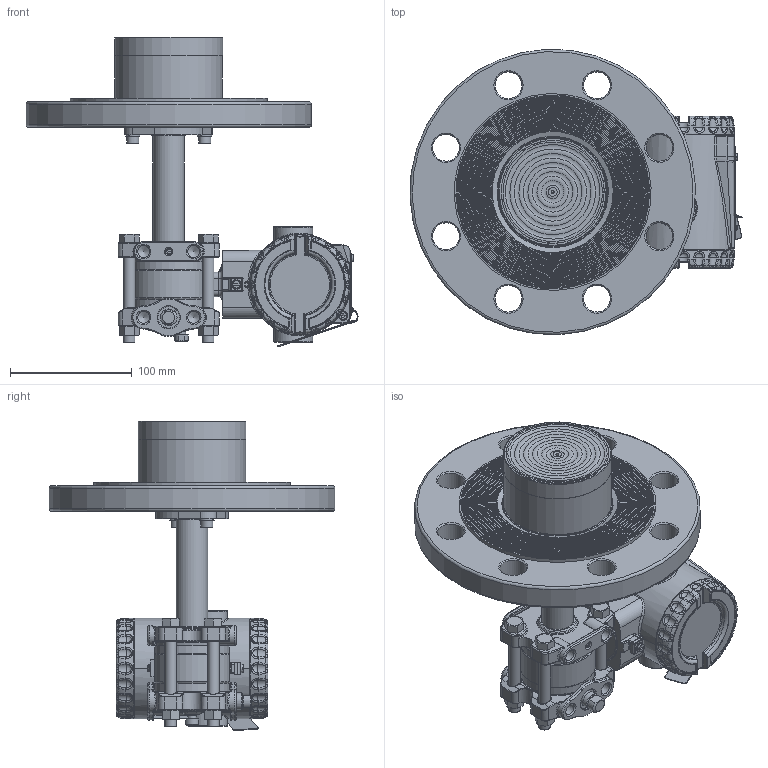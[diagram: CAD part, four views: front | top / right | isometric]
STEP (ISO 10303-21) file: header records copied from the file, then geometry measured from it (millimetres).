
FILE_DESCRIPTION(/* description */ (''),/* implementation_level */ '2;1');
FILE_NAME(/* name */ 'F:\Area\Desenvolvimento_2\Projects\Sensor\projetos\LD400-3d\dimensionais 3D clientes\LD400L\LD400L DN100 PN40 RF ext 50 ref 1-4NPT purga acima.stp',/* time_stamp */ '2023-02-23T17:30:33-03:00',/* author */ ('inventor02'),/* organization */ (''),/* preprocessor_version */ 'ST-DEVELOPER v17',/* originating_system */ 'Autodesk Inventor 2019',/* authorisation */ '');
FILE_SCHEMA (('CONFIG_CONTROL_DESIGN'));
Products named in the file (41): LD30XL DN100 PN40 RF ext 50 ref 1-4NPT purga acima; 204-0301-L-DN100 PN40 RF ext 50 purga acima; nivel fx3 com baixa diferencial 1-4NPT purga acima; involucro fx0-3 apos a usinagem final; flange diferencial std purga; 101-C-7484-01 flange selo nivel VR; 201-A-0504-tubo união teste 1; bujao 1-4NPT; Sangria; Porca 3-8 x 16 UNC; Paraf. 3-8 x 16 UNC; adaptação tubo x flanges 1-1-2 a 4pol; 101-B-0161-anel cortado do tubo - teste1; 101-B-0162-flange fixação tubo; ANSI B18.3.1M - M6x1 x 16; DIN 127 - A 6; flange DN100 PN40 ext 50; 096-B-0212-15; 101-B-7702-02 ext 4-50; 101-C-0143-09; Carcaça 400 com tampas e plaqueta sem letras; 101-D-0845-05 carcaça LD400 sem letras; 101-B-3614-03-tampa 400 sem letras; Tampa visor 400 montada sem letras; 101-B-3612-05 tampa visor 400 sem letras; 101-A-6107; oring 2034; 00034775-0; WHW_250; DIN 915 - M6 x 10; Chapa aterramento externo; 201-A-1771-02 inserto terra recartilhado; AS 1969 - ST4,2; ISO 1207 - M4 x 8; ANSI B18.3.1M - M4x0,7 x 8; Subconjunto plaqueta 400; plaqueta 400 em branco; Parafuso da Plaqueta; Rebite da Plaqueta; 096-A-0169-03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
Assembly tree (50 placements, depth 4):
  LD30XL DN100 PN40 RF ext 50 ref 1-4NPT purga acima
    204-0301-L-DN100 PN40 RF ext 50 purga acima
      nivel fx3 com baixa diferencial 1-4NPT purga acima
        involucro fx0-3 apos a usinagem final
        flange diferencial std purga
        101-C-7484-01 flange selo nivel VR
        201-A-0504-tubo união teste 1
        DIN 915 - M6 x 10
        bujao 1-4NPT
        Sangria
        Porca 3-8 x 16 UNC  x4
        Paraf. 3-8 x 16 UNC  x4
      adaptação tubo x flanges 1-1-2 a 4pol
        101-B-0161-anel cortado do tubo - teste1
        101-B-0162-flange fixação tubo
        ANSI B18.3.1M - M6x1 x 16  x2
        DIN 127 - A 6  x2
      flange DN100 PN40 ext 50
        096-B-0212-15
        101-B-7702-02 ext 4-50
        101-C-0143-09
    Carcaça 400 com tampas e plaqueta sem letras
      101-D-0845-05 carcaça LD400 sem letras
      101-B-3614-03-tampa 400 sem letras
      Tampa visor 400 montada sem letras
        101-B-3612-05 tampa visor 400 sem letras
        101-A-6107
        oring 2034
        00034775-0
        WHW_250
      DIN 915 - M6 x 10
      Chapa aterramento externo
      201-A-1771-02 inserto terra recartilhado
      AS 1969 - ST4,2
      ISO 1207 - M4 x 8
      ANSI B18.3.1M - M4x0,7 x 8  x2
      Subconjunto plaqueta 400
        plaqueta 400 em branco
        Parafuso da Plaqueta
        Rebite da Plaqueta
        096-A-0169-03
        101-A-0502-01
Bounding box: 273.14 x 234.78 x 254.42 mm (x, y, z)
Volume: 1669198 mm3; surface area: 407385.1 mm2
Topology: 43 solids, 43 shells, 2837 faces, 6840 edges, 4116 vertices
Faces by surface type: plane 753, cylinder 668, bspline 604, torus 506, cone 230, sphere 76
Full cylindrical faces by diameter (mm): 2 x4, 2.1 x1, 2.2 x1, 2.459 x3, 2.5 x1, 2.7 x1, 2.8 x1, 3 x4, 3.242 x3, 3.5 x1, 3.571 x1, 4 x5, 4.3 x2, 4.4 x1, 4.917 x4, 5 x1, 5.5 x3, 6 x6, 6.1 x2, 6.2 x1, 6.647 x1, 7 x5, 7.6 x2, 7.798 x4, 8 x1, 9.525 x4, 9.728 x6, 10 x2, 10.5 x8, 10.719 x2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
Entity records: 100497 total; most frequent: CARTESIAN_POINT 37355, DIRECTION 13086, ORIENTED_EDGE 12920, EDGE_CURVE 6460, AXIS2_PLACEMENT_3D 5626, VERTEX_POINT 3922, CIRCLE 3276, EDGE_LOOP 2912
